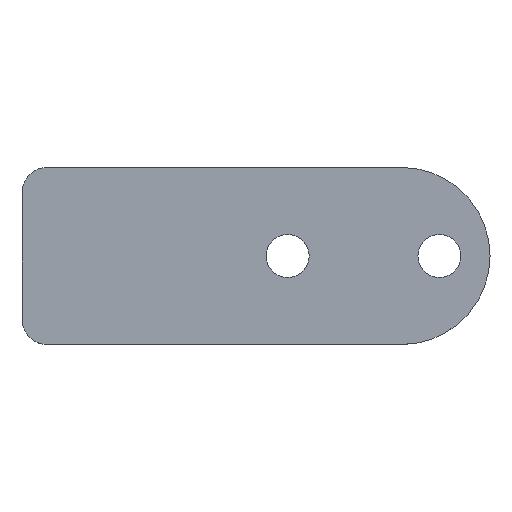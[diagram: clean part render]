
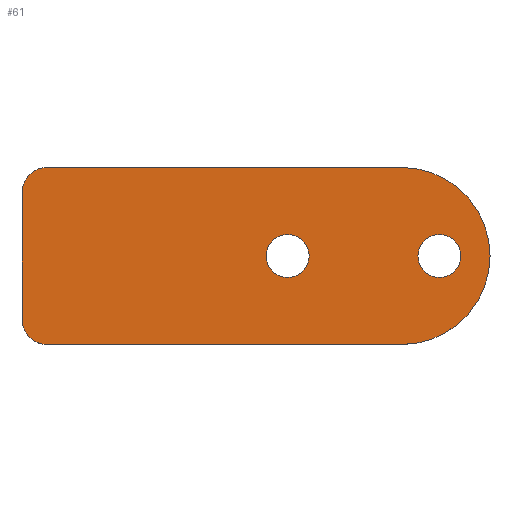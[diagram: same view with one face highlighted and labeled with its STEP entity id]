
A CAD part, top view. The second image highlights one B-rep face of the part: STEP entity #61.
In plain terms, the highlighted planar face has unit normal (0, 0, 1).
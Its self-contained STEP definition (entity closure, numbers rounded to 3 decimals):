
#9 = DIRECTION ( 'NONE',  ( 0., 0., 1. ) ) ;
#10 = CARTESIAN_POINT ( 'NONE',  ( -53.5, 0., 10. ) ) ;
#14 = DIRECTION ( 'NONE',  ( 0., -1., 0. ) ) ;
#19 = AXIS2_PLACEMENT_3D ( 'NONE', #414, #287, #38 ) ;
#24 = AXIS2_PLACEMENT_3D ( 'NONE', #31, #73, #123 ) ;
#25 = DIRECTION ( 'NONE',  ( 0., 0., 1. ) ) ;
#28 = DIRECTION ( 'NONE',  ( 1., 0., 0. ) ) ;
#30 = CARTESIAN_POINT ( 'NONE',  ( 0., 0., 10. ) ) ;
#31 = CARTESIAN_POINT ( 'NONE',  ( 15., 0., 10. ) ) ;
#32 = CARTESIAN_POINT ( 'NONE',  ( -45., 0., 10. ) ) ;
#34 = CARTESIAN_POINT ( 'NONE',  ( -150., 25., 10. ) ) ;
#36 = DIRECTION ( 'NONE',  ( 0., 0., 1. ) ) ;
#37 = DIRECTION ( 'NONE',  ( -1., 0., 0. ) ) ;
#38 = DIRECTION ( 'NONE',  ( 1., 0., 0. ) ) ;
#43 = CARTESIAN_POINT ( 'NONE',  ( 0., 0., 10. ) ) ;
#49 = DIRECTION ( 'NONE',  ( 0., 0., 1. ) ) ;
#56 = CARTESIAN_POINT ( 'NONE',  ( -140., 25., 10. ) ) ;
#60 = DIRECTION ( 'NONE',  ( 1., 0., 0. ) ) ;
#61 = ADVANCED_FACE ( 'NONE', ( #203, #197, #208 ), #209, .T. ) ;
#65 = EDGE_CURVE ( 'NONE', #311, #396, #195, .T. ) ;
#71 = EDGE_CURVE ( 'NONE', #416, #401, #194, .T. ) ;
#73 = DIRECTION ( 'NONE',  ( 0., 0., 1. ) ) ;
#74 = CARTESIAN_POINT ( 'NONE',  ( -36.5, 0., 10. ) ) ;
#75 = EDGE_CURVE ( 'NONE', #402, #362, #191, .T. ) ;
#78 = CARTESIAN_POINT ( 'NONE',  ( -45., 0., 10. ) ) ;
#91 = DIRECTION ( 'NONE',  ( 0., 0., 1. ) ) ;
#92 = DIRECTION ( 'NONE',  ( 1., 0., 0. ) ) ;
#102 = VECTOR ( 'NONE', #14, 1000. ) ;
#107 = LINE ( 'NONE', #192, #102 ) ;
#123 = DIRECTION ( 'NONE',  ( 1., 0., 0. ) ) ;
#131 = EDGE_CURVE ( 'NONE', #405, #271, #179, .T. ) ;
#136 = CIRCLE ( 'NONE', #19, 8.5 ) ;
#147 = CIRCLE ( 'NONE', #327, 35. ) ;
#150 = CARTESIAN_POINT ( 'NONE',  ( -140., -35., 10. ) ) ;
#151 = CARTESIAN_POINT ( 'NONE',  ( -150., -35., 10. ) ) ;
#152 = EDGE_CURVE ( 'NONE', #379, #311, #180, .T. ) ;
#163 = VECTOR ( 'NONE', #28, 1000. ) ;
#165 = CIRCLE ( 'NONE', #333, 8.5 ) ;
#166 = DIRECTION ( 'NONE',  ( 0., 0., 1. ) ) ;
#173 = LINE ( 'NONE', #151, #163 ) ;
#174 = VECTOR ( 'NONE', #37, 1000. ) ;
#176 = CARTESIAN_POINT ( 'NONE',  ( -140., -25., 10. ) ) ;
#179 = CIRCLE ( 'NONE', #389, 8.5 ) ;
#180 = LINE ( 'NONE', #322, #174 ) ;
#181 = EDGE_CURVE ( 'NONE', #271, #405, #165, .T. ) ;
#188 = EDGE_CURVE ( 'NONE', #401, #328, #173, .T. ) ;
#191 = CIRCLE ( 'NONE', #24, 8.5 ) ;
#192 = CARTESIAN_POINT ( 'NONE',  ( -150., 35., 10. ) ) ;
#194 = CIRCLE ( 'NONE', #356, 10. ) ;
#195 = CIRCLE ( 'NONE', #364, 10. ) ;
#196 = CARTESIAN_POINT ( 'NONE',  ( -150., -25., 10. ) ) ;
#197 = FACE_BOUND ( 'NONE', #392, .T. ) ;
#203 = FACE_BOUND ( 'NONE', #259, .T. ) ;
#208 = FACE_OUTER_BOUND ( 'NONE', #369, .T. ) ;
#209 = PLANE ( 'NONE',  #344 ) ;
#219 = CARTESIAN_POINT ( 'NONE',  ( -140., 35., 10. ) ) ;
#223 = CARTESIAN_POINT ( 'NONE',  ( 0., -35., 10. ) ) ;
#257 = ORIENTED_EDGE ( 'NONE', *, *, #263, .T. ) ;
#259 = EDGE_LOOP ( 'NONE', ( #274, #361 ) ) ;
#263 = EDGE_CURVE ( 'NONE', #328, #379, #147, .T. ) ;
#267 = ORIENTED_EDGE ( 'NONE', *, *, #417, .T. ) ;
#269 = DIRECTION ( 'NONE',  ( 1., 0., 0. ) ) ;
#271 = VERTEX_POINT ( 'NONE', #74 ) ;
#274 = ORIENTED_EDGE ( 'NONE', *, *, #181, .F. ) ;
#275 = DIRECTION ( 'NONE',  ( 1., 0., 0. ) ) ;
#287 = DIRECTION ( 'NONE',  ( 0., 0., 1. ) ) ;
#299 = ORIENTED_EDGE ( 'NONE', *, *, #65, .T. ) ;
#307 = ORIENTED_EDGE ( 'NONE', *, *, #71, .T. ) ;
#311 = VERTEX_POINT ( 'NONE', #219 ) ;
#318 = CARTESIAN_POINT ( 'NONE',  ( 6.5, 0., 10. ) ) ;
#322 = CARTESIAN_POINT ( 'NONE',  ( 0., 35., 10. ) ) ;
#323 = CARTESIAN_POINT ( 'NONE',  ( 0., 35., 10. ) ) ;
#324 = ORIENTED_EDGE ( 'NONE', *, *, #75, .F. ) ;
#327 = AXIS2_PLACEMENT_3D ( 'NONE', #30, #9, #275 ) ;
#328 = VERTEX_POINT ( 'NONE', #223 ) ;
#332 = DIRECTION ( 'NONE',  ( 1., 0., 0. ) ) ;
#333 = AXIS2_PLACEMENT_3D ( 'NONE', #78, #49, #269 ) ;
#344 = AXIS2_PLACEMENT_3D ( 'NONE', #43, #91, #332 ) ;
#345 = ORIENTED_EDGE ( 'NONE', *, *, #188, .T. ) ;
#347 = CARTESIAN_POINT ( 'NONE',  ( 23.5, 0., 10. ) ) ;
#351 = EDGE_CURVE ( 'NONE', #362, #402, #136, .T. ) ;
#355 = DIRECTION ( 'NONE',  ( 1., 0., 0. ) ) ;
#356 = AXIS2_PLACEMENT_3D ( 'NONE', #176, #36, #355 ) ;
#361 = ORIENTED_EDGE ( 'NONE', *, *, #131, .F. ) ;
#362 = VERTEX_POINT ( 'NONE', #318 ) ;
#364 = AXIS2_PLACEMENT_3D ( 'NONE', #56, #166, #92 ) ;
#369 = EDGE_LOOP ( 'NONE', ( #397, #299, #267, #307, #345, #257 ) ) ;
#379 = VERTEX_POINT ( 'NONE', #323 ) ;
#389 = AXIS2_PLACEMENT_3D ( 'NONE', #32, #25, #60 ) ;
#392 = EDGE_LOOP ( 'NONE', ( #324, #419 ) ) ;
#396 = VERTEX_POINT ( 'NONE', #34 ) ;
#397 = ORIENTED_EDGE ( 'NONE', *, *, #152, .T. ) ;
#401 = VERTEX_POINT ( 'NONE', #150 ) ;
#402 = VERTEX_POINT ( 'NONE', #347 ) ;
#405 = VERTEX_POINT ( 'NONE', #10 ) ;
#414 = CARTESIAN_POINT ( 'NONE',  ( 15., 0., 10. ) ) ;
#416 = VERTEX_POINT ( 'NONE', #196 ) ;
#417 = EDGE_CURVE ( 'NONE', #396, #416, #107, .T. ) ;
#419 = ORIENTED_EDGE ( 'NONE', *, *, #351, .F. ) ;
